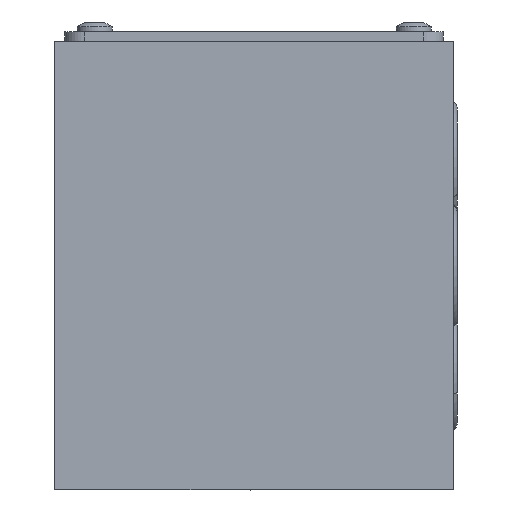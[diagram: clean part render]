
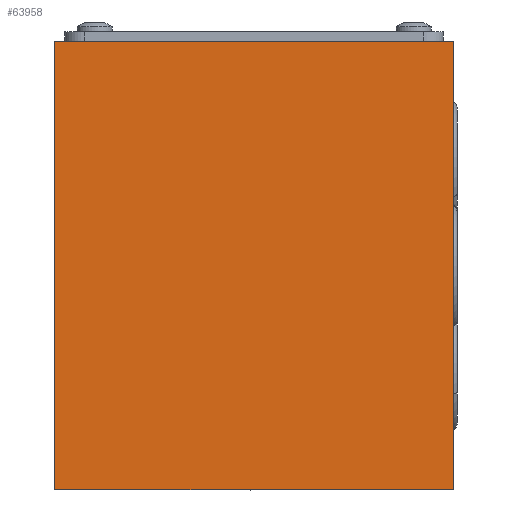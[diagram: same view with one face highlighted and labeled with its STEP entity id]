
A CAD part, left-side view. The second image highlights one B-rep face of the part: STEP entity #63958.
In plain terms, the highlighted planar face has unit normal (-1, 0, 0) as drawn and (0, 0, -1) by its records, which use the part's own axes.
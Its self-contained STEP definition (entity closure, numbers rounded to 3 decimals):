
#1450 = CARTESIAN_POINT ( 'NONE',  ( -22.5, -20., -32. ) ) ;
#1789 = LINE ( 'NONE', #1450, #61327 ) ;
#2915 = PLANE ( 'NONE',  #66884 ) ;
#10594 = ORIENTED_EDGE ( 'NONE', *, *, #84902, .F. ) ;
#11046 = DIRECTION ( 'NONE',  ( 0., 0., 1. ) ) ;
#13932 = EDGE_CURVE ( 'NONE', #25709, #74998, #99159, .T. ) ;
#23819 = CARTESIAN_POINT ( 'NONE',  ( 22.5, 20., -32. ) ) ;
#25216 = CARTESIAN_POINT ( 'NONE',  ( -22.5, 20., -32. ) ) ;
#25709 = VERTEX_POINT ( 'NONE', #23819 ) ;
#26484 = CARTESIAN_POINT ( 'NONE',  ( -22.5, 20., -32. ) ) ;
#27924 = VECTOR ( 'NONE', #81662, 1000. ) ;
#28034 = FACE_OUTER_BOUND ( 'NONE', #50858, .T. ) ;
#32488 = CARTESIAN_POINT ( 'NONE',  ( -22.5, -20., -32. ) ) ;
#33037 = VECTOR ( 'NONE', #65760, 1000. ) ;
#33115 = CARTESIAN_POINT ( 'NONE',  ( -22.5, 20., -32. ) ) ;
#33320 = DIRECTION ( 'NONE',  ( -1., 0., 0. ) ) ;
#34555 = VECTOR ( 'NONE', #33320, 1000. ) ;
#46246 = ORIENTED_EDGE ( 'NONE', *, *, #77753, .F. ) ;
#49605 = DIRECTION ( 'NONE',  ( 1., 0., 0. ) ) ;
#49775 = VERTEX_POINT ( 'NONE', #32488 ) ;
#50435 = CARTESIAN_POINT ( 'NONE',  ( 22.5, -20., -32. ) ) ;
#50858 = EDGE_LOOP ( 'NONE', ( #46246, #65488, #67559, #10594 ) ) ;
#51962 = LINE ( 'NONE', #33115, #27924 ) ;
#57019 = VERTEX_POINT ( 'NONE', #50435 ) ;
#61327 = VECTOR ( 'NONE', #49605, 1000. ) ;
#63958 = ADVANCED_FACE ( 'NONE', ( #28034 ), #2915, .F. ) ;
#65488 = ORIENTED_EDGE ( 'NONE', *, *, #13932, .F. ) ;
#65760 = DIRECTION ( 'NONE',  ( 0., 1., 0. ) ) ;
#66884 = AXIS2_PLACEMENT_3D ( 'NONE', #67347, #11046, #67700 ) ;
#67347 = CARTESIAN_POINT ( 'NONE',  ( -22.5, -20., -32. ) ) ;
#67559 = ORIENTED_EDGE ( 'NONE', *, *, #73656, .F. ) ;
#67700 = DIRECTION ( 'NONE',  ( 1., 0., 0. ) ) ;
#73656 = EDGE_CURVE ( 'NONE', #57019, #25709, #76128, .T. ) ;
#74998 = VERTEX_POINT ( 'NONE', #26484 ) ;
#76128 = LINE ( 'NONE', #104731, #33037 ) ;
#77753 = EDGE_CURVE ( 'NONE', #74998, #49775, #51962, .T. ) ;
#81662 = DIRECTION ( 'NONE',  ( 0., -1., 0. ) ) ;
#84902 = EDGE_CURVE ( 'NONE', #49775, #57019, #1789, .T. ) ;
#99159 = LINE ( 'NONE', #25216, #34555 ) ;
#104731 = CARTESIAN_POINT ( 'NONE',  ( 22.5, 20., -32. ) ) ;
